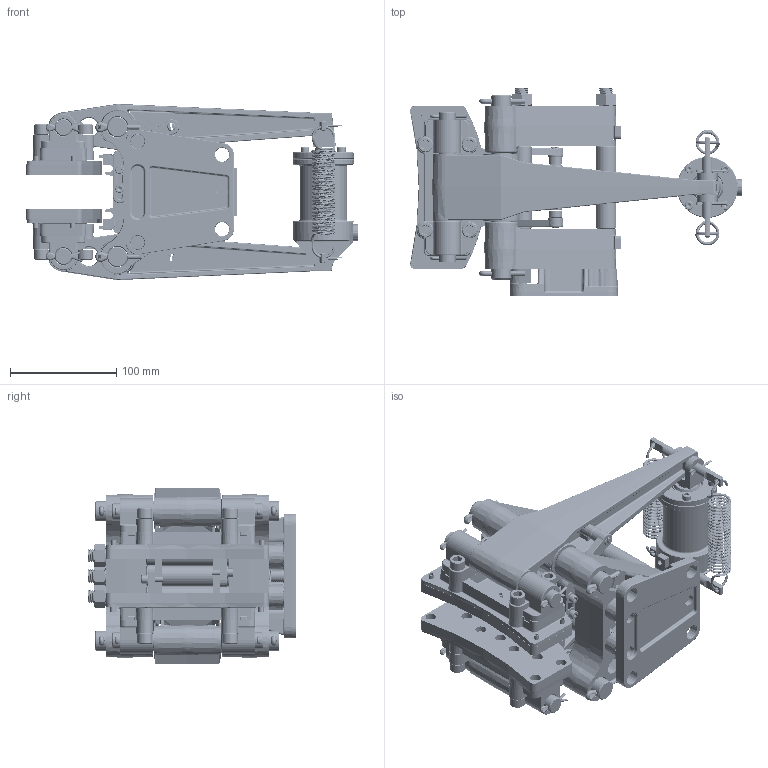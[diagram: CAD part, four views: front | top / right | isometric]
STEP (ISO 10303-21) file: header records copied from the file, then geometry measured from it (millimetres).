
FILE_DESCRIPTION (( 'STEP AP203' ), '1' );
FILE_NAME ('5020-H.STEP', '2026-02-19T00:41:07', ( '' ), ( '' ), 'SwSTEP 2.0', 'SolidWorks 2023', '' );
FILE_SCHEMA (( 'CONFIG_CONTROL_DESIGN' ));
Length unit declared in the file: inch
Products named in the file (1): 5020-H
Bounding box: 312.14 x 195.9 x 165.86 mm (x, y, z)
Surface area: 499496.7 mm2 (no closed solid volume)
Topology: 0 solids, 135 shells, 2587 faces, 7628 edges, 4970 vertices
Faces by surface type: cylinder 841, plane 719, cone 523, torus 279, bspline 215, sphere 10
Entity records: 117635 total; most frequent: CARTESIAN_POINT 52038, DIRECTION 13993, ORIENTED_EDGE 12742, EDGE_CURVE 7589, AXIS2_PLACEMENT_3D 5482, VERTEX_POINT 4970, CIRCLE 3109, VECTOR 3029
